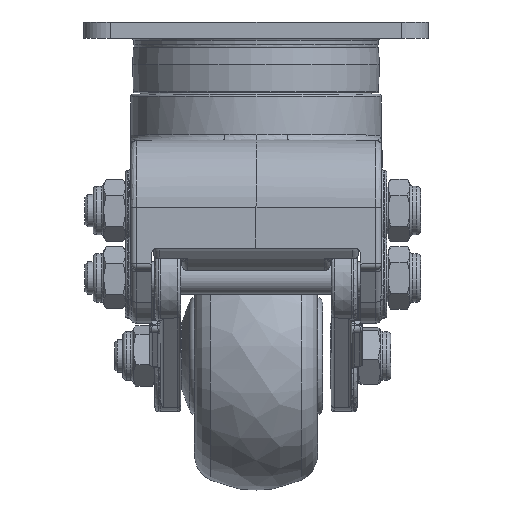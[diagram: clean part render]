
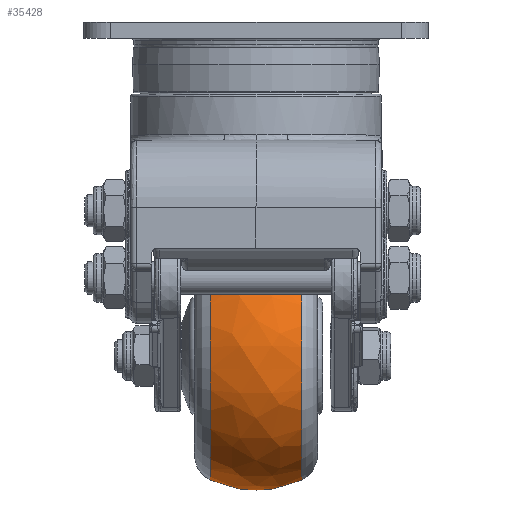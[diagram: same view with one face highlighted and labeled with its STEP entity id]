
A CAD part, left-side view. The second image highlights one B-rep face of the part: STEP entity #35428.
In plain terms, the highlighted free-form (B-spline) face has degree [2, 2] with [3, 9] control points.
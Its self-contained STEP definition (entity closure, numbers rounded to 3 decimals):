
#18=(
BOUNDED_SURFACE()
B_SPLINE_SURFACE(2,2,((#56160,#56161,#56162,#56163,#56164,#56165,#56166,
#56167,#56168),(#56169,#56170,#56171,#56172,#56173,#56174,#56175,#56176,
#56177),(#56178,#56179,#56180,#56181,#56182,#56183,#56184,#56185,#56186)),
 .UNSPECIFIED.,.F.,.T.,.F.)
B_SPLINE_SURFACE_WITH_KNOTS((3,3),(3,2,2,2,3),(-0.44,0.44),
(-3.142,-1.571,0.,1.571,3.142),
 .UNSPECIFIED.)
GEOMETRIC_REPRESENTATION_ITEM()
RATIONAL_B_SPLINE_SURFACE(((1.,0.707,1.,0.707,1.,
0.707,1.,0.707,1.),(0.905,0.64,
0.905,0.64,0.905,0.64,
0.905,0.64,0.905),(1.,0.707,
1.,0.707,1.,0.707,1.,0.707,1.)))
REPRESENTATION_ITEM('')
SURFACE()
);
#8900=FACE_OUTER_BOUND('',#10910,.T.);
#10910=EDGE_LOOP('',(#26033,#26034,#26035,#26036,#26037,#26038));
#12670=CIRCLE('',#37871,23.096);
#12671=CIRCLE('',#37872,23.096);
#12682=CIRCLE('',#37889,23.096);
#12683=CIRCLE('',#37890,23.096);
#12685=CIRCLE('',#37892,20.);
#14505=VERTEX_POINT('',#56121);
#14506=VERTEX_POINT('',#56123);
#14517=VERTEX_POINT('',#56155);
#14518=VERTEX_POINT('',#56156);
#18643=EDGE_CURVE('',#14505,#14506,#12670,.T.);
#18644=EDGE_CURVE('',#14506,#14505,#12671,.T.);
#18658=EDGE_CURVE('',#14517,#14518,#12682,.T.);
#18659=EDGE_CURVE('',#14518,#14517,#12683,.T.);
#18661=EDGE_CURVE('',#14505,#14518,#12685,.T.);
#26033=ORIENTED_EDGE('',*,*,#18644,.F.);
#26034=ORIENTED_EDGE('',*,*,#18643,.F.);
#26035=ORIENTED_EDGE('',*,*,#18661,.T.);
#26036=ORIENTED_EDGE('',*,*,#18659,.T.);
#26037=ORIENTED_EDGE('',*,*,#18658,.T.);
#26038=ORIENTED_EDGE('',*,*,#18661,.F.);
#35428=ADVANCED_FACE('',(#8900),#18,.F.);
#37871=AXIS2_PLACEMENT_3D('',#56124,#42683,#42684);
#37872=AXIS2_PLACEMENT_3D('',#56125,#42685,#42686);
#37889=AXIS2_PLACEMENT_3D('',#56157,#42722,#42723);
#37890=AXIS2_PLACEMENT_3D('',#56158,#42724,#42725);
#37892=AXIS2_PLACEMENT_3D('',#56187,#42728,#42729);
#42683=DIRECTION('center_axis',(0.,-1.,0.));
#42684=DIRECTION('ref_axis',(0.103,0.,-0.995));
#42685=DIRECTION('center_axis',(0.,-1.,0.));
#42686=DIRECTION('ref_axis',(0.103,0.,-0.995));
#42722=DIRECTION('center_axis',(0.,-1.,0.));
#42723=DIRECTION('ref_axis',(0.103,0.,-0.995));
#42724=DIRECTION('center_axis',(0.,-1.,0.));
#42725=DIRECTION('ref_axis',(0.103,0.,-0.995));
#42728=DIRECTION('center_axis',(-0.995,0.,
-0.103));
#42729=DIRECTION('ref_axis',(-0.103,0.,0.995));
#56121=CARTESIAN_POINT('',(11.851,-15.486,-39.291));
#56123=CARTESIAN_POINT('',(16.597,-15.486,-85.239));
#56124=CARTESIAN_POINT('Origin',(14.224,-15.486,-62.265));
#56125=CARTESIAN_POINT('Origin',(14.224,-15.486,-62.265));
#56155=CARTESIAN_POINT('',(16.597,1.546,-85.239));
#56156=CARTESIAN_POINT('',(11.851,1.546,-39.291));
#56157=CARTESIAN_POINT('Origin',(14.224,1.546,-62.265));
#56158=CARTESIAN_POINT('Origin',(14.224,1.546,-62.265));
#56160=CARTESIAN_POINT('Ctrl Pts',(11.851,1.546,-39.291));
#56161=CARTESIAN_POINT('Ctrl Pts',(-11.123,1.546,-41.664));
#56162=CARTESIAN_POINT('Ctrl Pts',(-8.75,1.546,-64.638));
#56163=CARTESIAN_POINT('Ctrl Pts',(-6.377,1.546,-87.612));
#56164=CARTESIAN_POINT('Ctrl Pts',(16.597,1.546,-85.239));
#56165=CARTESIAN_POINT('Ctrl Pts',(39.571,1.546,-82.866));
#56166=CARTESIAN_POINT('Ctrl Pts',(37.198,1.546,-59.891));
#56167=CARTESIAN_POINT('Ctrl Pts',(34.825,1.546,-36.917));
#56168=CARTESIAN_POINT('Ctrl Pts',(11.851,1.546,-39.291));
#56169=CARTESIAN_POINT('Ctrl Pts',(11.439,-6.97,-35.304));
#56170=CARTESIAN_POINT('Ctrl Pts',(-15.522,-6.97,
-38.089));
#56171=CARTESIAN_POINT('Ctrl Pts',(-12.737,-6.97,-65.05));
#56172=CARTESIAN_POINT('Ctrl Pts',(-9.952,-6.97,
-92.01));
#56173=CARTESIAN_POINT('Ctrl Pts',(17.009,-6.97,-89.225));
#56174=CARTESIAN_POINT('Ctrl Pts',(43.969,-6.97,-86.44));
#56175=CARTESIAN_POINT('Ctrl Pts',(41.184,-6.97,-59.48));
#56176=CARTESIAN_POINT('Ctrl Pts',(38.399,-6.97,-32.519));
#56177=CARTESIAN_POINT('Ctrl Pts',(11.439,-6.97,-35.304));
#56178=CARTESIAN_POINT('Ctrl Pts',(11.851,-15.486,-39.291));
#56179=CARTESIAN_POINT('Ctrl Pts',(-11.123,-15.486,
-41.664));
#56180=CARTESIAN_POINT('Ctrl Pts',(-8.75,-15.486,
-64.638));
#56181=CARTESIAN_POINT('Ctrl Pts',(-6.377,-15.486,
-87.612));
#56182=CARTESIAN_POINT('Ctrl Pts',(16.597,-15.486,-85.239));
#56183=CARTESIAN_POINT('Ctrl Pts',(39.571,-15.486,-82.866));
#56184=CARTESIAN_POINT('Ctrl Pts',(37.198,-15.486,-59.891));
#56185=CARTESIAN_POINT('Ctrl Pts',(34.825,-15.486,-36.917));
#56186=CARTESIAN_POINT('Ctrl Pts',(11.851,-15.486,-39.291));
#56187=CARTESIAN_POINT('Origin',(13.71,-6.97,-57.291));
